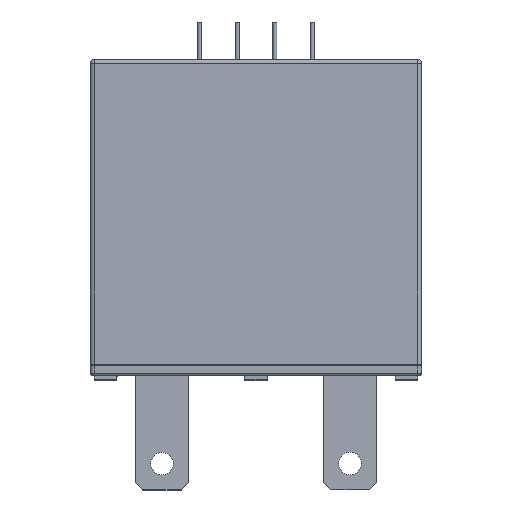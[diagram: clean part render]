
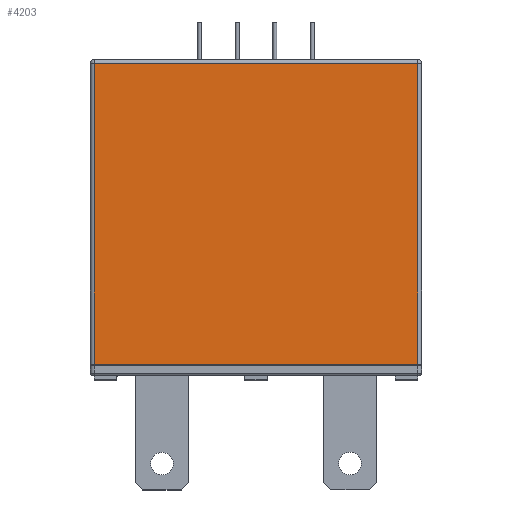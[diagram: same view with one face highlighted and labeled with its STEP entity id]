
A CAD part, top view. The second image highlights one B-rep face of the part: STEP entity #4203.
In plain terms, the highlighted planar face has unit normal (0, 0, 1).
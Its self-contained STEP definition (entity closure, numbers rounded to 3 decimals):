
#657=DIRECTION('',(1.,0.,0.));
#658=VECTOR('',#657,43.);
#659=CARTESIAN_POINT('',(-21.5,1.5,6.3));
#660=LINE('',#659,#658);
#1001=DIRECTION('',(0.,1.,0.));
#1002=VECTOR('',#1001,40.);
#1003=CARTESIAN_POINT('',(21.5,1.5,6.3));
#1004=LINE('',#1003,#1002);
#1053=DIRECTION('',(1.,0.,0.));
#1054=VECTOR('',#1053,43.);
#1055=CARTESIAN_POINT('',(-21.5,41.5,6.3));
#1056=LINE('',#1055,#1054);
#1060=DIRECTION('',(0.,1.,0.));
#1061=VECTOR('',#1060,40.);
#1062=CARTESIAN_POINT('',(-21.5,1.5,6.3));
#1063=LINE('',#1062,#1061);
#3145=CARTESIAN_POINT('',(-21.5,1.5,6.3));
#3146=VERTEX_POINT('',#3145);
#3147=CARTESIAN_POINT('',(21.5,1.5,6.3));
#3148=VERTEX_POINT('',#3147);
#3314=CARTESIAN_POINT('',(-21.5,41.5,6.3));
#3316=VERTEX_POINT('',#3314);
#3321=CARTESIAN_POINT('',(21.5,41.5,6.3));
#3322=VERTEX_POINT('',#3321);
#4191=CARTESIAN_POINT('',(-21.5,1.5,6.3));
#4192=DIRECTION('',(0.,0.,1.));
#4193=DIRECTION('',(1.,0.,0.));
#4194=AXIS2_PLACEMENT_3D('',#4191,#4192,#4193);
#4195=PLANE('',#4194);
#4196=ORIENTED_EDGE('',*,*,#4106,.T.);
#4197=ORIENTED_EDGE('',*,*,#4135,.F.);
#4198=ORIENTED_EDGE('',*,*,#3797,.F.);
#4200=ORIENTED_EDGE('',*,*,#4199,.T.);
#4201=EDGE_LOOP('',(#4196,#4197,#4198,#4200));
#4202=FACE_OUTER_BOUND('',#4201,.F.);
#4203=ADVANCED_FACE('',(#4202),#4195,.T.);
#3797=EDGE_CURVE('',#3146,#3148,#660,.T.);
#4106=EDGE_CURVE('',#3316,#3322,#1056,.T.);
#4135=EDGE_CURVE('',#3148,#3322,#1004,.T.);
#4199=EDGE_CURVE('',#3146,#3316,#1063,.T.);
